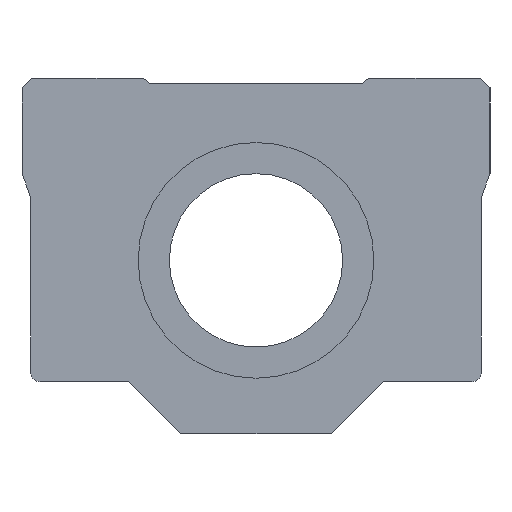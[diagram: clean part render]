
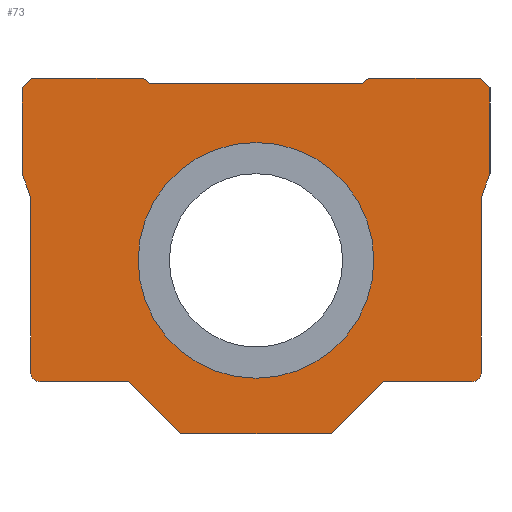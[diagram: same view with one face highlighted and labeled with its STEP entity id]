
A CAD part, left-side view. The second image highlights one B-rep face of the part: STEP entity #73.
In plain terms, the highlighted planar face has unit normal (-1, 0, 0).
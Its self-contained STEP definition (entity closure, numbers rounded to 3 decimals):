
#73 = ADVANCED_FACE( '', ( #179, #180 ), #181, .F. );
#179 = FACE_BOUND( '', #330, .T. );
#180 = FACE_OUTER_BOUND( '', #331, .T. );
#181 = PLANE( '', #332 );
#330 = EDGE_LOOP( '', ( #494 ) );
#331 = EDGE_LOOP( '', ( #495, #496, #497, #498, #499, #500, #501, #502, #503, #504, #505, #506, #507, #508, #509, #510, #511, #512, #513, #514 ) );
#332 = AXIS2_PLACEMENT_3D( '', #515, #516, #517 );
#494 = ORIENTED_EDGE( '', *, *, #798, .T. );
#495 = ORIENTED_EDGE( '', *, *, #799, .F. );
#496 = ORIENTED_EDGE( '', *, *, #800, .F. );
#497 = ORIENTED_EDGE( '', *, *, #801, .F. );
#498 = ORIENTED_EDGE( '', *, *, #802, .F. );
#499 = ORIENTED_EDGE( '', *, *, #803, .F. );
#500 = ORIENTED_EDGE( '', *, *, #804, .F. );
#501 = ORIENTED_EDGE( '', *, *, #805, .F. );
#502 = ORIENTED_EDGE( '', *, *, #806, .F. );
#503 = ORIENTED_EDGE( '', *, *, #807, .F. );
#504 = ORIENTED_EDGE( '', *, *, #808, .F. );
#505 = ORIENTED_EDGE( '', *, *, #794, .F. );
#506 = ORIENTED_EDGE( '', *, *, #809, .T. );
#507 = ORIENTED_EDGE( '', *, *, #783, .T. );
#508 = ORIENTED_EDGE( '', *, *, #810, .T. );
#509 = ORIENTED_EDGE( '', *, *, #779, .F. );
#510 = ORIENTED_EDGE( '', *, *, #811, .F. );
#511 = ORIENTED_EDGE( '', *, *, #812, .F. );
#512 = ORIENTED_EDGE( '', *, *, #813, .F. );
#513 = ORIENTED_EDGE( '', *, *, #814, .F. );
#514 = ORIENTED_EDGE( '', *, *, #815, .F. );
#515 = CARTESIAN_POINT( '', ( 0., 0., 0. ) );
#516 = DIRECTION( '', ( 1., 0., 0. ) );
#517 = DIRECTION( '', ( 0., 1., 0. ) );
#779 = EDGE_CURVE( '', #904, #899, #906, .T. );
#783 = EDGE_CURVE( '', #913, #911, #914, .T. );
#794 = EDGE_CURVE( '', #930, #932, #933, .T. );
#798 = EDGE_CURVE( '', #938, #938, #939, .T. );
#799 = EDGE_CURVE( '', #940, #941, #942, .T. );
#800 = EDGE_CURVE( '', #943, #940, #944, .T. );
#801 = EDGE_CURVE( '', #945, #943, #946, .T. );
#802 = EDGE_CURVE( '', #947, #945, #948, .T. );
#803 = EDGE_CURVE( '', #949, #947, #950, .T. );
#804 = EDGE_CURVE( '', #951, #949, #952, .T. );
#805 = EDGE_CURVE( '', #953, #951, #954, .T. );
#806 = EDGE_CURVE( '', #955, #953, #956, .T. );
#807 = EDGE_CURVE( '', #957, #955, #958, .T. );
#808 = EDGE_CURVE( '', #932, #957, #959, .T. );
#809 = EDGE_CURVE( '', #930, #913, #960, .T. );
#810 = EDGE_CURVE( '', #911, #899, #961, .T. );
#811 = EDGE_CURVE( '', #962, #904, #963, .T. );
#812 = EDGE_CURVE( '', #964, #962, #965, .T. );
#813 = EDGE_CURVE( '', #966, #964, #967, .T. );
#814 = EDGE_CURVE( '', #968, #966, #969, .T. );
#815 = EDGE_CURVE( '', #941, #968, #970, .T. );
#899 = VERTEX_POINT( '', #1082 );
#904 = VERTEX_POINT( '', #1089 );
#906 = LINE( '', #1092, #1093 );
#911 = VERTEX_POINT( '', #1099 );
#913 = VERTEX_POINT( '', #1102 );
#914 = LINE( '', #1103, #1104 );
#930 = VERTEX_POINT( '', #1121 );
#932 = VERTEX_POINT( '', #1124 );
#933 = LINE( '', #1125, #1126 );
#938 = VERTEX_POINT( '', #1133 );
#939 = CIRCLE( '', #1134, 13.6 );
#940 = VERTEX_POINT( '', #1135 );
#941 = VERTEX_POINT( '', #1136 );
#942 = LINE( '', #1137, #1138 );
#943 = VERTEX_POINT( '', #1139 );
#944 = LINE( '', #1140, #1141 );
#945 = VERTEX_POINT( '', #1142 );
#946 = LINE( '', #1143, #1144 );
#947 = VERTEX_POINT( '', #1145 );
#948 = LINE( '', #1146, #1147 );
#949 = VERTEX_POINT( '', #1148 );
#950 = LINE( '', #1149, #1150 );
#951 = VERTEX_POINT( '', #1151 );
#952 = CIRCLE( '', #1152, 1.1 );
#953 = VERTEX_POINT( '', #1153 );
#954 = LINE( '', #1154, #1155 );
#955 = VERTEX_POINT( '', #1156 );
#956 = LINE( '', #1157, #1158 );
#957 = VERTEX_POINT( '', #1159 );
#958 = LINE( '', #1160, #1161 );
#959 = LINE( '', #1162, #1163 );
#960 = LINE( '', #1164, #1165 );
#961 = LINE( '', #1166, #1167 );
#962 = VERTEX_POINT( '', #1168 );
#963 = LINE( '', #1169, #1170 );
#964 = VERTEX_POINT( '', #1171 );
#965 = LINE( '', #1172, #1173 );
#966 = VERTEX_POINT( '', #1174 );
#967 = LINE( '', #1175, #1176 );
#968 = VERTEX_POINT( '', #1177 );
#969 = LINE( '', #1178, #1179 );
#970 = CIRCLE( '', #1180, 1.1 );
#1082 = CARTESIAN_POINT( '', ( 0., 13., 21. ) );
#1089 = CARTESIAN_POINT( '', ( 0., 25.9, 21. ) );
#1092 = CARTESIAN_POINT( '', ( 0., 25.9, 21. ) );
#1093 = VECTOR( '', #1325, 1000. );
#1099 = CARTESIAN_POINT( '', ( 0., 12.3, 20.45 ) );
#1102 = CARTESIAN_POINT( '', ( 0., -12.3, 20.45 ) );
#1103 = CARTESIAN_POINT( '', ( 0., 6.15, 20.45 ) );
#1104 = VECTOR( '', #1328, 1000. );
#1121 = CARTESIAN_POINT( '', ( 0., -13., 21. ) );
#1124 = CARTESIAN_POINT( '', ( 0., -25.9, 21. ) );
#1125 = CARTESIAN_POINT( '', ( 0., 25.9, 21. ) );
#1126 = VECTOR( '', #1346, 1000. );
#1133 = CARTESIAN_POINT( '', ( 0., 13.6, 0. ) );
#1134 = AXIS2_PLACEMENT_3D( '', #1349, #1350, #1351 );
#1135 = CARTESIAN_POINT( '', ( 0., 14.697, -14. ) );
#1136 = CARTESIAN_POINT( '', ( 0., 24.9, -14. ) );
#1137 = CARTESIAN_POINT( '', ( 0., 14.697, -14. ) );
#1138 = VECTOR( '', #1352, 1000. );
#1139 = CARTESIAN_POINT( '', ( 0., 8.697, -20. ) );
#1140 = CARTESIAN_POINT( '', ( 0., 8.697, -20. ) );
#1141 = VECTOR( '', #1353, 1000. );
#1142 = CARTESIAN_POINT( '', ( 0., -8.697, -20. ) );
#1143 = CARTESIAN_POINT( '', ( 0., -8.697, -20. ) );
#1144 = VECTOR( '', #1354, 1000. );
#1145 = CARTESIAN_POINT( '', ( 0., -14.697, -14. ) );
#1146 = CARTESIAN_POINT( '', ( 0., -14.697, -14. ) );
#1147 = VECTOR( '', #1355, 1000. );
#1148 = CARTESIAN_POINT( '', ( 0., -24.9, -14. ) );
#1149 = CARTESIAN_POINT( '', ( 0., -24.9, -14. ) );
#1150 = VECTOR( '', #1356, 1000. );
#1151 = CARTESIAN_POINT( '', ( 0., -26., -12.9 ) );
#1152 = AXIS2_PLACEMENT_3D( '', #1357, #1358, #1359 );
#1153 = CARTESIAN_POINT( '', ( 0., -26., 7.253 ) );
#1154 = CARTESIAN_POINT( '', ( 0., -26., 7.253 ) );
#1155 = VECTOR( '', #1360, 1000. );
#1156 = CARTESIAN_POINT( '', ( 0., -27., 10. ) );
#1157 = CARTESIAN_POINT( '', ( 0., -27., 10. ) );
#1158 = VECTOR( '', #1361, 1000. );
#1159 = CARTESIAN_POINT( '', ( 0., -27., 19.9 ) );
#1160 = CARTESIAN_POINT( '', ( 0., -27., 19.9 ) );
#1161 = VECTOR( '', #1362, 1000. );
#1162 = CARTESIAN_POINT( '', ( 0., -25.9, 21. ) );
#1163 = VECTOR( '', #1363, 1000. );
#1164 = CARTESIAN_POINT( '', ( 0., -3.53, 13.559 ) );
#1165 = VECTOR( '', #1364, 1000. );
#1166 = CARTESIAN_POINT( '', ( 0., 3.88, 13.834 ) );
#1167 = VECTOR( '', #1365, 1000. );
#1168 = CARTESIAN_POINT( '', ( 0., 27., 19.9 ) );
#1169 = CARTESIAN_POINT( '', ( 0., 27., 19.9 ) );
#1170 = VECTOR( '', #1366, 1000. );
#1171 = CARTESIAN_POINT( '', ( 0., 27., 10. ) );
#1172 = CARTESIAN_POINT( '', ( 0., 27., 10. ) );
#1173 = VECTOR( '', #1367, 1000. );
#1174 = CARTESIAN_POINT( '', ( 0., 26., 7.253 ) );
#1175 = CARTESIAN_POINT( '', ( 0., 26., 7.253 ) );
#1176 = VECTOR( '', #1368, 1000. );
#1177 = CARTESIAN_POINT( '', ( 0., 26., -12.9 ) );
#1178 = CARTESIAN_POINT( '', ( 0., 26., -13.9 ) );
#1179 = VECTOR( '', #1369, 1000. );
#1180 = AXIS2_PLACEMENT_3D( '', #1370, #1371, #1372 );
#1325 = DIRECTION( '', ( 0., -1., 0. ) );
#1328 = DIRECTION( '', ( 0., 1., 0. ) );
#1346 = DIRECTION( '', ( 0., -1., 0. ) );
#1349 = CARTESIAN_POINT( '', ( 0., 0., 0. ) );
#1350 = DIRECTION( '', ( 1., 0., 0. ) );
#1351 = DIRECTION( '', ( 0., 1., 0. ) );
#1352 = DIRECTION( '', ( 0., 1., 0. ) );
#1353 = DIRECTION( '', ( 0., 0.707, 0.707 ) );
#1354 = DIRECTION( '', ( 0., 1., 0. ) );
#1355 = DIRECTION( '', ( 0., 0.707, -0.707 ) );
#1356 = DIRECTION( '', ( 0., 1., 0. ) );
#1357 = CARTESIAN_POINT( '', ( 0., -24.9, -12.9 ) );
#1358 = DIRECTION( '', ( 1., 0., 0. ) );
#1359 = DIRECTION( '', ( 0., -1., 0. ) );
#1360 = DIRECTION( '', ( 0., 0., -1. ) );
#1361 = DIRECTION( '', ( 0., 0.342, -0.94 ) );
#1362 = DIRECTION( '', ( 0., 0., -1. ) );
#1363 = DIRECTION( '', ( 0., -0.707, -0.707 ) );
#1364 = DIRECTION( '', ( 0., 0.786, -0.618 ) );
#1365 = DIRECTION( '', ( 0., 0.786, 0.618 ) );
#1366 = DIRECTION( '', ( 0., -0.707, 0.707 ) );
#1367 = DIRECTION( '', ( 0., 0., 1. ) );
#1368 = DIRECTION( '', ( 0., 0.342, 0.94 ) );
#1369 = DIRECTION( '', ( 0., 0., 1. ) );
#1370 = CARTESIAN_POINT( '', ( 0., 24.9, -12.9 ) );
#1371 = DIRECTION( '', ( 1., 0., 0. ) );
#1372 = DIRECTION( '', ( 0., 0., -1. ) );
